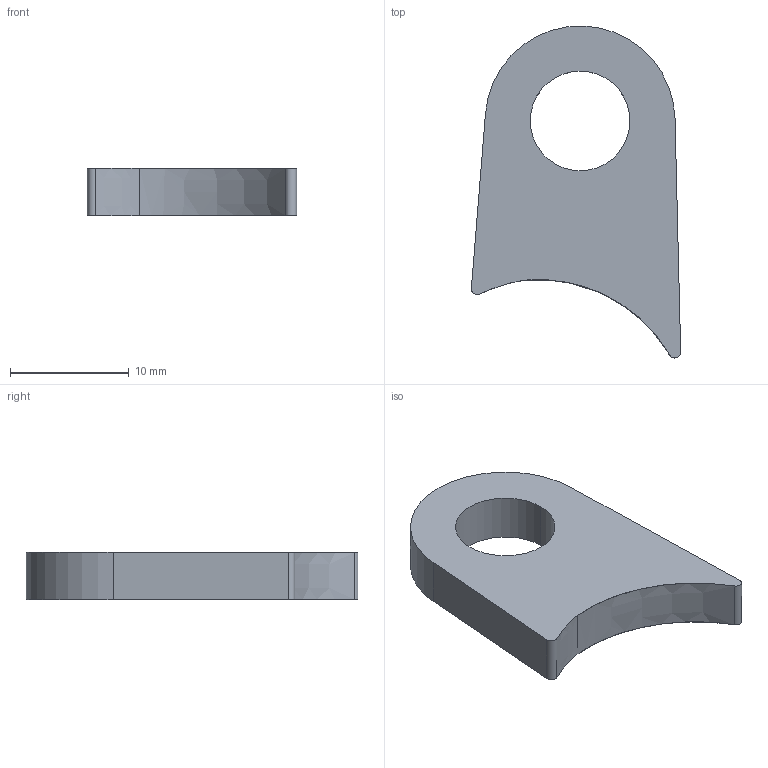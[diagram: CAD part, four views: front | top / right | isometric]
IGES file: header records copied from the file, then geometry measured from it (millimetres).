
Start section: START RECORD GO HERE.
Global section: file name: 20M_SU_05003L (chape susp abant L).igs; native system: IBM CATIA IGES - CATIA Version 5 Release 19 ; preprocessor: CATIA Version 5 Release 19 ; author: mik75; organization: LAPTOP-SUH344G9; date: 20200110.162647; units: millimetre
Bounding box: 17.64 x 27.97 x 4 mm (x, y, z)
Surface area: 1019.2 mm2 (no closed solid volume)
Topology: 0 solids, 0 shells, 11 faces, 54 edges, 56 vertices
Faces by surface type: revolution 5, plane 4, extrusion 2
